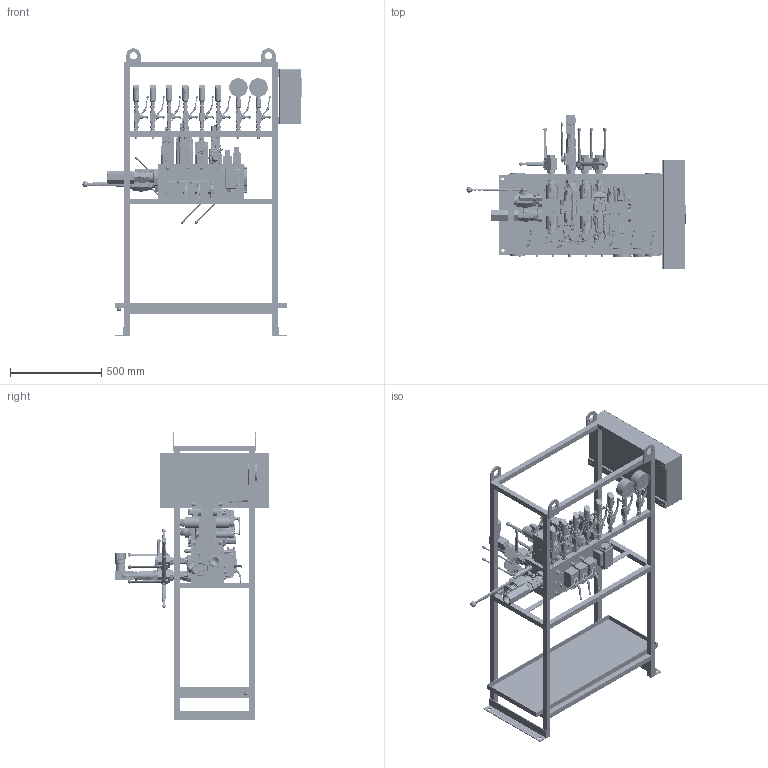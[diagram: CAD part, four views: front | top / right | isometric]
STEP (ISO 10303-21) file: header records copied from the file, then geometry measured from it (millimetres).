
FILE_DESCRIPTION(/* description */ ('Unknown'),/* implementation_level */ '2;1');
FILE_NAME(/* name */ 'GME006893',/* time_stamp */ '2025-09-04T11:14:33+02:00',/* author */ ('Unknown'),/* organization */ ('Unknown'),/* preprocessor_version */ 'ST-DEVELOPER v19.4',/* originating_system */ 'Solid Edge',/* authorisation */ 'Unknown');
FILE_SCHEMA (('AUTOMOTIVE_DESIGN {1 0 10303 214 3 1 1}'));
Products named in the file (115): GME006893; GNG003919; GBS005527; 83.700; 10.008-1-B (1-4 L); 10.008-1-A (1-4 C); CRC002277; CRC001824; BKH-G14; SW9_00063; CRC002702; CRC002085; CRC002720; HEDE10-3X_250_1_-GA-K35-V R901433085; EV_0_250bar_diam_100(WIKA) 1-2G; CRC001716; Caja_600x300x120; Pegatina peligro electr; GNG003920; GPL004491; CAC003156; CTA000165; CTA000166; CTA000168; CTA000102; CBR000364; CBR000372; CBR000376; CBR000712; CBR000714; Z2S_10-1-3X; Z2S_10-1-3X_1; Z2S_10-1-3X_2; Z2S_10-1-3X_3; Z2S_10-1-3X_4; Z2S_10-1-3X_5; Z2S_10-1-3X_6; Z2S_10-1-3X_7; Z2S_10-1-3X_8; Z2S_10-1-3X_9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
Assembly tree (245 placements, depth 4):
  GME006893
    GNG003919
      GBS005527
        GBS005527
        83.700  x4
        10.008-1-B (1-4 L)  x8
        10.008-1-A (1-4 C)
      CRC002277  x8
      CRC001824  x14
      BKH-G14  x8
        BKH-G14
        SW9_00063
      CRC002702  x6
      CRC002085  x2
      CRC002720  x2
      HEDE10-3X_250_1_-GA-K35-V R901433085  x6
      EV_0_250bar_diam_100(WIKA) 1-2G  x2
      CRC001716  x8
      Caja_600x300x120
        Caja_600x300x120
        Pegatina peligro electr
    GNG003920
      GPL004491
      CAC003156  x7
      CTA000165  x14
      CTA000166  x9
      CTA000168  x7
      CTA000102  x3
      CBR000364  x5
      CBR000372
      CBR000376
      CBR000712  x2
      CBR000714
      Z2S_10-1-3X  x2
        Z2S_10-1-3X_1
        Z2S_10-1-3X_2
        Z2S_10-1-3X_3
        Z2S_10-1-3X_4
        Z2S_10-1-3X_5
        Z2S_10-1-3X_6
        Z2S_10-1-3X_7
        Z2S_10-1-3X_8
        Z2S_10-1-3X_9
        Z2S_10-1-3X_10
        Z2S_10-1-3X_11
      ZDR10DP1-5X_210YM
      4WE10J3XCG24N9K4  x2
        merge
        666_64
        DIN912 M6
      Z2S16-1-5X
        Z2S16-1-5X_1
        Z2S16-1-5X_2
        Z2S16-1-5X_3
        Z2S16-1-5X_4
      4WEH16J7X6EG24N9EK4B10V
        4WEH16J7X6EG24N9EK4B10V
        666_64  x2
      4WRLE10-4X
      M-2SED_6_NK1X_350CG110N9K4
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Bounding box: 1201.38 x 846.7 x 1575 mm (x, y, z)
Volume: 43357531.2 mm3; surface area: 8800793.1 mm2
Topology: 325 solids, 487 shells, 38810 faces, 100396 edges, 64789 vertices
Faces by surface type: plane 25186, cylinder 5847, bspline 3979, cone 2976, torus 646, sphere 176
Full cylindrical faces by diameter (mm): 1 x34, 1.1 x9, 1.2 x7, 1.5 x36, 1.8 x1, 1.9 x4, 1.998 x1, 2 x42, 2.1 x1, 2.5 x4, 2.523 x1, 2.68 x2, 2.7 x16, 3 x4, 3.1 x2, 3.36 x16, 4 x20, 4.13 x4, 4.134 x6, 4.2 x20, 4.45 x18, 4.5 x16, 4.917 x4, 5 x54, 5.04 x1, 5.3 x8, 5.5 x21, 5.6 x4, 5.88 x16, 6 x117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
Entity records: 828824 total; most frequent: CARTESIAN_POINT 241624, ORIENTED_EDGE 105934, DIRECTION 93209, EDGE_CURVE 52967, LINE 38499, VECTOR 38499, VERTEX_POINT 35401, AXIS2_PLACEMENT_3D 27355
